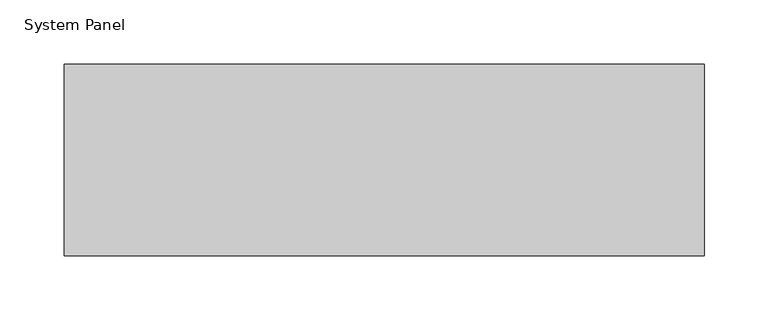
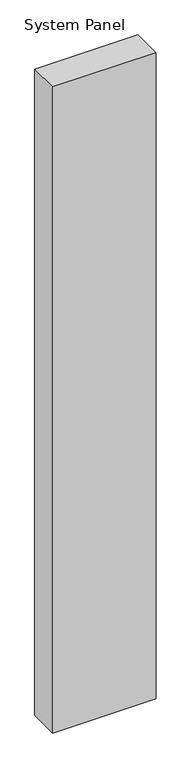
"""IFC4 building model written with IfcOpenShell, lengths in millimetres: plate geometry, System Panel : MetecnoPanel 150mm Vertical - Plain Astro - PIR."""

from ifc_helpers import new_model, si_unit, origin, origin_with_axes, place, context, project, spatial, polyline, outline, extrude, source, transform, mapped, element, save


def system_panel_1fb53309(model_context):
    return source(origin(), model_context, "Body", "SweptSolid", [
        extrude(outline(polyline([(250.0, 0.0), (-250.0, 0.0), (-250.0, 150.0), (250.0, 150.0), (250.0, 0.0)])), origin_with_axes(), (0.0, 0.0, 1.0), 3300.0),
    ])


if __name__ == "__main__":
    model = new_model("IFC4")
    model_context = context("Model", 3, world=origin())
    ifc_project = project(units=[si_unit("LENGTHUNIT", "METRE", prefix="MILLI")], contexts=[model_context])
    site = spatial("IfcSite", under=ifc_project)
    building = spatial("IfcBuilding", under=site)
    placement = place(None, origin())
    system_panel_shape = system_panel_1fb53309(model_context)
    element("IfcPlate", 1, ObjectType="System Panel : MetecnoPanel 150mm Vertical - Plain Astro - PIR", at=placement, inside=building, context=model_context, shape_type="MappedRepresentation", body=[
        mapped(system_panel_shape, transform((0.0, 0.0, 0.0), x_axis=(1.0, 0.0, 0.0), y_axis=(0.0, 1.0, 0.0), z_axis=(0.0, 0.0, 1.0))),
    ])
    save(model, "model.ifc")
